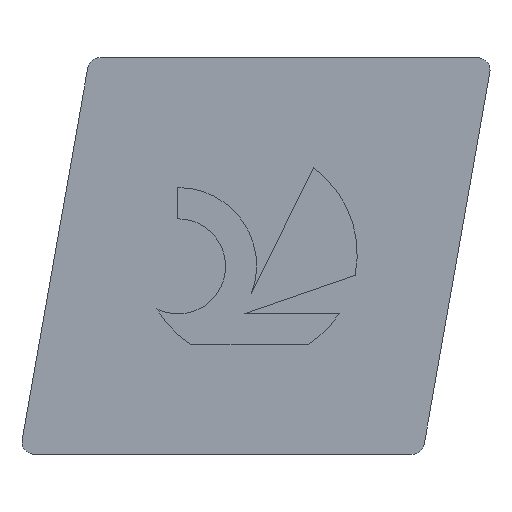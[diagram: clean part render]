
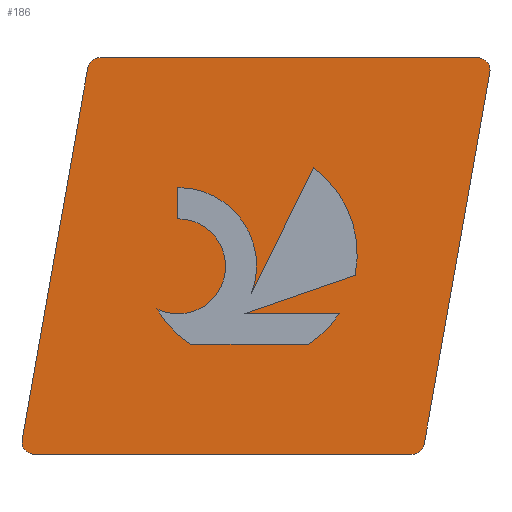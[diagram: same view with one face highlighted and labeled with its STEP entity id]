
A CAD part, top view. The second image highlights one B-rep face of the part: STEP entity #186.
In plain terms, the highlighted planar face has unit normal (0, 0, 1).
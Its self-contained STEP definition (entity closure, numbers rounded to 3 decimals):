
#152=EDGE_CURVE('',#210,#208,#421,.T.);
#154=EDGE_CURVE('',#234,#314,#423,.T.);
#158=VERTEX_POINT('',#427);
#160=EDGE_CURVE('',#360,#354,#429,.T.);
#168=EDGE_CURVE('',#262,#246,#439,.T.);
#174=VERTEX_POINT('',#446);
#176=EDGE_CURVE('',#314,#174,#448,.T.);
#182=EDGE_CURVE('',#218,#222,#455,.T.);
#186=ADVANCED_FACE('',(#459,#460),#461,.T.);
#188=EDGE_CURVE('',#174,#202,#463,.T.);
#202=VERTEX_POINT('',#478);
#204=EDGE_CURVE('',#222,#276,#480,.T.);
#208=VERTEX_POINT('',#484);
#210=VERTEX_POINT('',#486);
#216=VERTEX_POINT('',#492);
#218=VERTEX_POINT('',#494);
#222=VERTEX_POINT('',#498);
#234=VERTEX_POINT('',#512);
#238=VERTEX_POINT('',#517);
#240=EDGE_CURVE('',#278,#210,#519,.T.);
#242=EDGE_CURVE('',#208,#218,#521,.T.);
#244=EDGE_CURVE('',#354,#358,#523,.T.);
#246=VERTEX_POINT('',#525);
#256=EDGE_CURVE('',#358,#234,#537,.T.);
#262=VERTEX_POINT('',#544);
#264=EDGE_CURVE('',#216,#278,#546,.T.);
#276=VERTEX_POINT('',#560);
#278=VERTEX_POINT('',#562);
#298=EDGE_CURVE('',#158,#262,#584,.T.);
#308=EDGE_CURVE('',#246,#238,#596,.T.);
#310=VERTEX_POINT('',#598);
#312=EDGE_CURVE('',#202,#158,#600,.T.);
#314=VERTEX_POINT('',#602);
#352=EDGE_CURVE('',#276,#310,#643,.T.);
#354=VERTEX_POINT('',#645);
#358=VERTEX_POINT('',#650);
#360=VERTEX_POINT('',#652);
#388=EDGE_CURVE('',#310,#216,#682,.T.);
#400=EDGE_CURVE('',#238,#360,#695,.T.);
#421=LINE('',#707,#708);
#423=CIRCLE('',#711,1.724);
#427=CARTESIAN_POINT('',(2.877,3.69,0.0));
#429=CIRCLE('',#718,1.724);
#439=LINE('',#731,#732);
#446=CARTESIAN_POINT('',(2.741,1.76,0.0));
#448=LINE('',#744,#745);
#455=LINE('',#755,#756);
#459=FACE_BOUND('',#760,.T.);
#460=FACE_OUTER_BOUND('',#761,.T.);
#461=PLANE('',#762);
#463=CIRCLE('',#765,1.724);
#478=CARTESIAN_POINT('',(2.196,2.329,0.0));
#480=CIRCLE('',#790,0.2);
#484=CARTESIAN_POINT('',(6.28,0.0,0.0));
#486=CARTESIAN_POINT('',(0.238,0.0,0.0));
#492=CARTESIAN_POINT('',(1.091,6.185,0.0));
#494=CARTESIAN_POINT('',(6.477,0.165,0.0));
#498=CARTESIAN_POINT('',(7.526,6.115,0.0));
#512=CARTESIAN_POINT('',(5.116,2.25,0.0));
#517=CARTESIAN_POINT('',(3.71,2.568,0.0));
#519=CIRCLE('',#834,0.2);
#521=CIRCLE('',#837,0.2);
#523=LINE('',#840,#841);
#525=CARTESIAN_POINT('',(2.532,4.27,0.0));
#537=LINE('',#859,#860);
#544=CARTESIAN_POINT('',(2.532,3.77,0.0));
#546=LINE('',#871,#872);
#560=CARTESIAN_POINT('',(7.329,6.35,0.0));
#562=CARTESIAN_POINT('',(0.041,0.235,0.0));
#584=CIRCLE('',#925,0.761);
#596=CIRCLE('',#942,1.252);
#598=CARTESIAN_POINT('',(1.287,6.35,0.0));
#600=CIRCLE('',#947,0.761);
#602=CARTESIAN_POINT('',(4.62,1.76,0.0));
#643=LINE('',#1007,#1008);
#645=CARTESIAN_POINT('',(5.371,2.868,0.0));
#650=CARTESIAN_POINT('',(3.593,2.25,0.0));
#652=CARTESIAN_POINT('',(4.707,4.59,0.0));
#682=CIRCLE('',#1065,0.2);
#695=LINE('',#1084,#1085);
#707=CARTESIAN_POINT('',(0.238,0.0,0.0));
#708=VECTOR('',#1095,1.0);
#711=AXIS2_PLACEMENT_3D('',#1096,#1097,#1098);
#718=AXIS2_PLACEMENT_3D('',#1099,#1100,#1101);
#731=CARTESIAN_POINT('',(2.532,3.723,0.0));
#732=VECTOR('',#1119,1.0);
#744=CARTESIAN_POINT('',(3.263,1.76,0.0));
#745=VECTOR('',#1129,1.0);
#755=CARTESIAN_POINT('',(6.477,0.165,0.0));
#756=VECTOR('',#1138,1.0);
#760=EDGE_LOOP('',(#1140,#1141,#1142,#1143,#1144,#1145,#1146,#1147,#1148,#1149,#1150));
#761=EDGE_LOOP('',(#1151,#1152,#1153,#1154,#1155,#1156,#1157,#1158));
#762=AXIS2_PLACEMENT_3D('',#1159,#1160,#1161);
#765=AXIS2_PLACEMENT_3D('',#1162,#1163,#1164);
#790=AXIS2_PLACEMENT_3D('',#1177,#1178,#1179);
#834=AXIS2_PLACEMENT_3D('',#1205,#1206,#1207);
#837=AXIS2_PLACEMENT_3D('',#1208,#1209,#1210);
#840=CARTESIAN_POINT('',(3.822,2.33,0.0));
#841=VECTOR('',#1211,1.0);
#859=CARTESIAN_POINT('',(4.45,2.25,0.0));
#860=VECTOR('',#1232,1.0);
#871=CARTESIAN_POINT('',(1.091,6.185,0.0));
#872=VECTOR('',#1244,1.0);
#925=AXIS2_PLACEMENT_3D('',#1284,#1285,#1286);
#942=AXIS2_PLACEMENT_3D('',#1304,#1305,#1306);
#947=AXIS2_PLACEMENT_3D('',#1307,#1308,#1309);
#1007=CARTESIAN_POINT('',(7.329,6.35,0.0));
#1008=VECTOR('',#1354,1.0);
#1065=AXIS2_PLACEMENT_3D('',#1390,#1391,#1392);
#1084=CARTESIAN_POINT('',(4.336,3.838,0.0));
#1085=VECTOR('',#1406,1.0);
#1095=DIRECTION('',(1.0,0.0,0.0));
#1096=CARTESIAN_POINT('',(3.681,3.205,0.0));
#1097=DIRECTION('',(0.0,-0.0,-1.0));
#1098=DIRECTION('',(0.545,-0.838,0.0));
#1099=CARTESIAN_POINT('',(3.681,3.205,0.0));
#1100=DIRECTION('',(0.0,-0.0,-1.0));
#1101=DIRECTION('',(0.981,-0.196,0.0));
#1119=DIRECTION('',(0.0,1.0,0.0));
#1129=DIRECTION('',(-1.0,0.0,0.0));
#1138=DIRECTION('',(0.174,0.985,0.0));
#1140=ORIENTED_EDGE('',*,*,#168,.T.);
#1141=ORIENTED_EDGE('',*,*,#308,.T.);
#1142=ORIENTED_EDGE('',*,*,#400,.T.);
#1143=ORIENTED_EDGE('',*,*,#160,.T.);
#1144=ORIENTED_EDGE('',*,*,#244,.T.);
#1145=ORIENTED_EDGE('',*,*,#256,.T.);
#1146=ORIENTED_EDGE('',*,*,#154,.T.);
#1147=ORIENTED_EDGE('',*,*,#176,.T.);
#1148=ORIENTED_EDGE('',*,*,#188,.T.);
#1149=ORIENTED_EDGE('',*,*,#312,.T.);
#1150=ORIENTED_EDGE('',*,*,#298,.T.);
#1151=ORIENTED_EDGE('',*,*,#152,.T.);
#1152=ORIENTED_EDGE('',*,*,#242,.T.);
#1153=ORIENTED_EDGE('',*,*,#182,.T.);
#1154=ORIENTED_EDGE('',*,*,#204,.T.);
#1155=ORIENTED_EDGE('',*,*,#352,.T.);
#1156=ORIENTED_EDGE('',*,*,#388,.T.);
#1157=ORIENTED_EDGE('',*,*,#264,.T.);
#1158=ORIENTED_EDGE('',*,*,#240,.T.);
#1159=CARTESIAN_POINT('',(3.784,3.175,0.0));
#1160=DIRECTION('',(0.0,0.0,1.0));
#1161=DIRECTION('',(1.0,0.0,0.0));
#1162=CARTESIAN_POINT('',(3.681,3.205,0.0));
#1163=DIRECTION('',(-0.0,0.0,-1.0));
#1164=DIRECTION('',(-0.861,-0.508,0.0));
#1177=CARTESIAN_POINT('',(7.329,6.15,0.0));
#1178=DIRECTION('',(-0.0,0.0,1.0));
#1179=DIRECTION('',(0.985,-0.174,0.0));
#1205=CARTESIAN_POINT('',(0.238,0.2,0.0));
#1206=DIRECTION('',(0.0,0.0,1.0));
#1207=DIRECTION('',(-0.985,0.174,0.0));
#1208=CARTESIAN_POINT('',(6.28,0.2,0.0));
#1209=DIRECTION('',(0.0,0.0,1.0));
#1210=DIRECTION('',(0.,-1.0,0.0));
#1211=DIRECTION('',(-0.945,-0.328,0.0));
#1232=DIRECTION('',(1.0,0.0,0.0));
#1244=DIRECTION('',(-0.174,-0.985,0.0));
#1284=CARTESIAN_POINT('',(2.537,3.009,0.0));
#1285=DIRECTION('',(0.0,0.0,1.0));
#1286=DIRECTION('',(-0.447,-0.894,0.0));
#1304=CARTESIAN_POINT('',(2.542,3.018,0.0));
#1305=DIRECTION('',(0.0,-0.0,-1.0));
#1306=DIRECTION('',(0.933,-0.359,0.0));
#1307=CARTESIAN_POINT('',(2.537,3.009,0.0));
#1308=DIRECTION('',(0.0,0.0,1.0));
#1309=DIRECTION('',(-0.447,-0.894,0.0));
#1354=DIRECTION('',(-1.0,0.0,0.0));
#1390=CARTESIAN_POINT('',(1.287,6.15,0.0));
#1391=DIRECTION('',(0.0,0.0,1.0));
#1392=DIRECTION('',(0.,1.0,0.0));
#1406=DIRECTION('',(0.442,0.897,-0.0));
